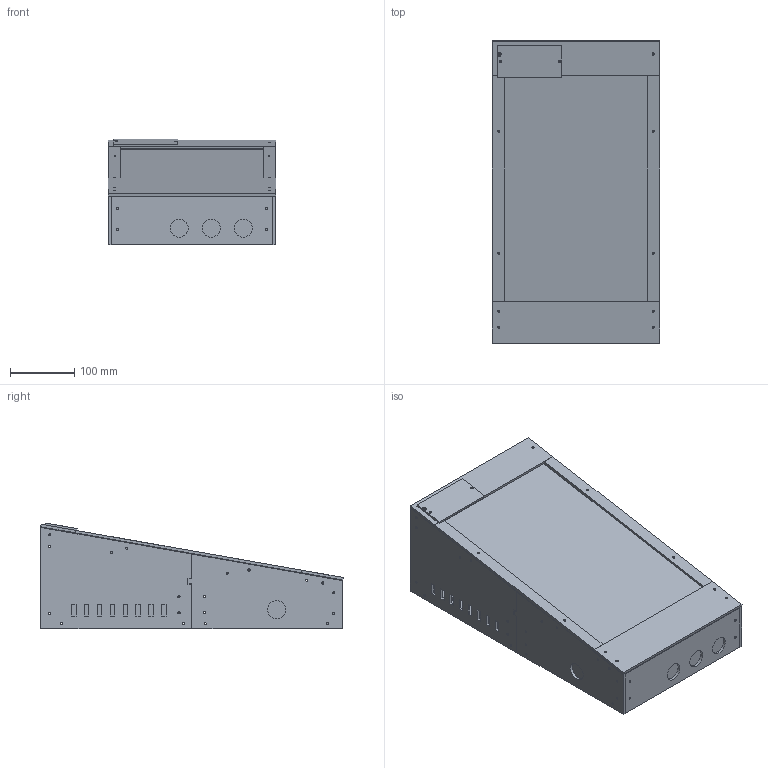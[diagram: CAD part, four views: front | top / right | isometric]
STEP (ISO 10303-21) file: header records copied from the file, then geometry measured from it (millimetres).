
FILE_DESCRIPTION(('Open CASCADE Model'),'2;1');
FILE_NAME('Open CASCADE Shape Model','2026-10-30T18:25:39',('Author'),( 'Open CASCADE'),'Open CASCADE STEP processor 7.8','Open CASCADE 7.8' ,'Unknown');
FILE_SCHEMA(('AUTOMOTIVE_DESIGN { 1 0 10303 214 1 1 1 1 }'));
Length unit declared in the file: millimetre
Products named in the file (55): Mini_VPin_Prototype_V1_5; left_front_wall; left_rear_wall; right_front_wall; right_rear_wall; front_button_panel; rear_vent_panel; corner_left_front_24; corner_left_front_56; corner_left_rear_24; corner_left_rear_128; corner_right_front_24; corner_right_front_56; corner_right_rear_24; corner_right_rear_128; splice_left; splice_right; floor_block_left_28; floor_block_left_218; floor_block_left_252; floor_block_left_442; floor_block_right_28; floor_block_right_218; floor_block_right_252; floor_block_right_442; bottom_front; bottom_rear; top_block_left_25; top_block_left_50; top_block_left_140; top_block_left_330; top_block_left_450; top_block_right_25; top_block_right_50; top_block_right_140; top_block_right_330; top_block_right_450; monitor_saddle_left_180; monitor_saddle_left_360; monitor_saddle_right_180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
Assembly tree (54 placements, depth 2):
  Mini_VPin_Prototype_V1_5
    left_front_wall
    left_rear_wall
    right_front_wall
    right_rear_wall
    front_button_panel
    rear_vent_panel
    corner_left_front_24
    corner_left_front_56
    corner_left_rear_24
    corner_left_rear_128
    corner_right_front_24
    corner_right_front_56
    corner_right_rear_24
    corner_right_rear_128
    splice_left
    splice_right
    floor_block_left_28
    floor_block_left_218
    floor_block_left_252
    floor_block_left_442
    floor_block_right_28
    floor_block_right_218
    floor_block_right_252
    floor_block_right_442
    bottom_front
    bottom_rear
    top_block_left_25
    top_block_left_50
    top_block_left_140
    top_block_left_330
    top_block_left_450
    top_block_right_25
    top_block_right_50
    top_block_right_140
    top_block_right_330
    top_block_right_450
    monitor_saddle_left_180
    monitor_saddle_left_360
    monitor_saddle_right_180
    monitor_saddle_right_360
    bezel_left_one_piece
    bezel_right_a1_a2
    front_cable_lid
    rear_control_deck
    control_hatch
    REFERENCE_monitor_12mm_envelope
    REFERENCE_PC_allowance_ports_face_front
    REFERENCE_0_front_button_110
    REFERENCE_1_front_button_160
    REFERENCE_2_front_button_210
    REFERENCE_3_left_flipper
    REFERENCE_4_right_flipper
    REFERENCE_5_central_folded_cover_reserve
    REFERENCE_6_USB_encoder_allowance
Bounding box: 260 x 470.69 x 164.59 mm (x, y, z)
Volume: 6506967.2 mm3; surface area: 1292983.8 mm2
Topology: 54 solids, 54 shells, 997 faces, 2577 edges, 1718 vertices
Faces by surface type: plane 843, cylinder 154
Full cylindrical faces by diameter (mm): 3.4 x148, 28 x5
Entity records: 65414 total; most frequent: CARTESIAN_POINT 11731, DIRECTION 9444, LINE 6413, VECTOR 6413, ORIENTED_EDGE 5154, PCURVE 5154, DEFINITIONAL_REPRESENTATION 5154, EDGE_CURVE 2577
